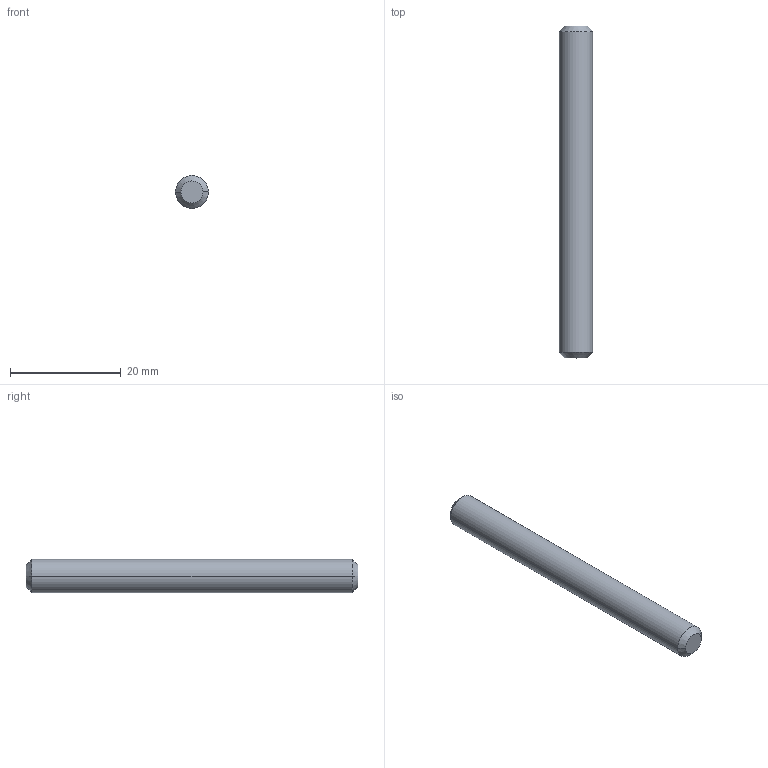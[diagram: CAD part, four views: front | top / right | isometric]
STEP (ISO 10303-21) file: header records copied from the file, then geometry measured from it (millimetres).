
FILE_DESCRIPTION(('CATIA V5 STEP Exchange'),'2;1');
FILE_NAME('D:\交接\张长江\21-Benz H6\光华荣昌转盘数据\H6 转盘\转盘用整椅数据 A9609109920\sample\H6 转盘夏季测试样件方案_20240617\样件数据\钣金件\SHT0017294-111 锁止机构转轴.stp','2024-06-19T07:11:59+00:00',('none'),('none'),'CATIA Version 5 Release 20 GA (IN-10)','CATIA V5 STEP AP203 Edition 2','none');
FILE_SCHEMA(('AP203_CONFIGURATION_CONTROLLED_3D_DESIGN_OF_MECHANICAL_PARTS_AND_ASSEMBLIES_MIM_LF { 1 0 10303 403 2 1 2}'));
Length unit declared in the file: millimetre
Products named in the file (1): SHT0017294-11
Bounding box: 6 x 60 x 6 mm (x, y, z)
Volume: 1679.7 mm3; surface area: 1162.8 mm2
Topology: 1 solids, 1 shells, 8 faces, 14 edges, 8 vertices
Faces by surface type: cone 4, plane 2, cylinder 2
Entity records: 207 total; most frequent: CARTESIAN_POINT 30, DIRECTION 28, ORIENTED_EDGE 28, AXIS2_PLACEMENT_3D 16, EDGE_CURVE 14, ADVANCED_FACE 8, CIRCLE 8, VERTEX_POINT 8
